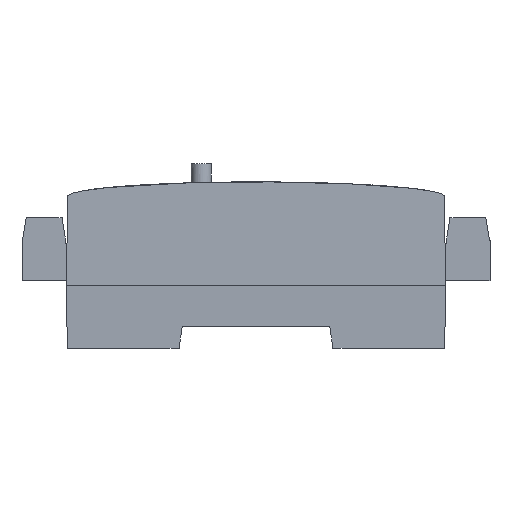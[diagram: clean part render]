
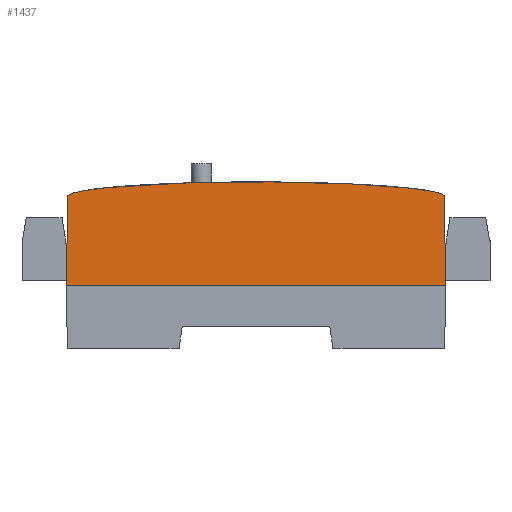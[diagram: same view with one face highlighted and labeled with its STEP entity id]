
A CAD part, left-side view. The second image highlights one B-rep face of the part: STEP entity #1437.
In plain terms, the highlighted planar face has unit normal (-1, 0, 0.018).
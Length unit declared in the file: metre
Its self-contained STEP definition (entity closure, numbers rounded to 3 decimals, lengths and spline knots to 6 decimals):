
#51=B_SPLINE_CURVE_WITH_KNOTS('',3,(#2183,#2184,#2185,#2186,#2187,#2188,
#2189,#2190,#2191,#2192,#2193,#2194,#2195,#2196,#2197,#2198,#2199,#2200,
#2201,#2202,#2203,#2204,#2205,#2206,#2207,#2208,#2209,#2210,#2211,#2212,
#2213),.UNSPECIFIED.,.F.,.F.,(4,1,1,1,1,1,1,1,1,1,1,1,1,1,1,1,1,1,1,1,1,
1,1,1,1,1,1,1,4),(0.00029,0.001001,0.001712,
0.003134,0.004556,0.005977,0.008821,
0.011665,0.014508,0.017352,0.023039,
0.028726,0.034414,0.040101,0.045788,
0.051476,0.057163,0.06285,0.068537,
0.074225,0.077068,0.079912,0.082756,
0.085599,0.087021,0.088443,0.089865,
0.090576,0.091286),.UNSPECIFIED.);
#178=ORIENTED_EDGE('',*,*,#500,.F.);
#179=ORIENTED_EDGE('',*,*,#517,.T.);
#180=ORIENTED_EDGE('',*,*,#532,.T.);
#181=ORIENTED_EDGE('',*,*,#485,.T.);
#485=EDGE_CURVE('',#673,#676,#812,.T.);
#500=EDGE_CURVE('',#683,#676,#827,.F.);
#517=EDGE_CURVE('',#683,#698,#51,.T.);
#532=EDGE_CURVE('',#698,#673,#849,.T.);
#673=VERTEX_POINT('',#2060);
#676=VERTEX_POINT('',#2069);
#683=VERTEX_POINT('',#2098);
#698=VERTEX_POINT('',#2182);
#812=LINE('',#2070,#989);
#827=LINE('',#2099,#1004);
#849=LINE('',#2322,#1026);
#989=VECTOR('',#1690,1.);
#1004=VECTOR('',#1719,1.);
#1026=VECTOR('',#1745,1.);
#1164=EDGE_LOOP('',(#178,#179,#180,#181));
#1269=FACE_BOUND('',#1164,.T.);
#1364=PLANE('',#1572);
#1437=ADVANCED_FACE('',(#1269),#1364,.T.);
#1572=AXIS2_PLACEMENT_3D('',#2324,#1747,#1748);
#1690=DIRECTION('',(0.,-1.,0.));
#1719=DIRECTION('',(0.017,0.017,1.));
#1745=DIRECTION('',(-0.017,0.017,-1.));
#1747=DIRECTION('',(-1.,0.,0.017));
#1748=DIRECTION('',(0.017,0.,1.));
#2060=CARTESIAN_POINT('',(-0.05375,0.045,0.));
#2069=CARTESIAN_POINT('',(-0.05375,-0.045,0.));
#2070=CARTESIAN_POINT('',(-0.05375,0.,0.));
#2098=CARTESIAN_POINT('',(-0.053379,-0.044629,0.021257));
#2099=CARTESIAN_POINT('',(-0.053736,-0.044986,0.000785));
#2182=CARTESIAN_POINT('',(-0.053379,0.044629,0.021257));
#2183=CARTESIAN_POINT('',(-0.053379,-0.044629,0.021257));
#2184=CARTESIAN_POINT('',(-0.053376,-0.044466,0.02143));
#2185=CARTESIAN_POINT('',(-0.053372,-0.044033,0.021638));
#2186=CARTESIAN_POINT('',(-0.053367,-0.043149,0.021949));
#2187=CARTESIAN_POINT('',(-0.053362,-0.042009,0.022217));
#2188=CARTESIAN_POINT('',(-0.053358,-0.040632,0.022474));
#2189=CARTESIAN_POINT('',(-0.053353,-0.038781,0.022758));
#2190=CARTESIAN_POINT('',(-0.053348,-0.036458,0.023041));
#2191=CARTESIAN_POINT('',(-0.053343,-0.033663,0.023314));
#2192=CARTESIAN_POINT('',(-0.053339,-0.030864,0.02354));
#2193=CARTESIAN_POINT('',(-0.053335,-0.027129,0.023795));
#2194=CARTESIAN_POINT('',(-0.05333,-0.022456,0.024041));
#2195=CARTESIAN_POINT('',(-0.053327,-0.016844,0.024254));
#2196=CARTESIAN_POINT('',(-0.053324,-0.011229,0.024398));
#2197=CARTESIAN_POINT('',(-0.053323,-0.005614,0.024482));
#2198=CARTESIAN_POINT('',(-0.053322,0.000002,0.024509));
#2199=CARTESIAN_POINT('',(-0.053323,0.005618,0.024482));
#2200=CARTESIAN_POINT('',(-0.053324,0.011233,0.024398));
#2201=CARTESIAN_POINT('',(-0.053327,0.016848,0.024254));
#2202=CARTESIAN_POINT('',(-0.05333,0.02246,0.024041));
#2203=CARTESIAN_POINT('',(-0.053335,0.027133,0.023794));
#2204=CARTESIAN_POINT('',(-0.053339,0.030868,0.02354));
#2205=CARTESIAN_POINT('',(-0.053343,0.033667,0.023314));
#2206=CARTESIAN_POINT('',(-0.053348,0.036462,0.02304));
#2207=CARTESIAN_POINT('',(-0.053353,0.038785,0.022757));
#2208=CARTESIAN_POINT('',(-0.053358,0.040636,0.022474));
#2209=CARTESIAN_POINT('',(-0.053362,0.042016,0.022216));
#2210=CARTESIAN_POINT('',(-0.053367,0.043158,0.021946));
#2211=CARTESIAN_POINT('',(-0.053372,0.044038,0.021636));
#2212=CARTESIAN_POINT('',(-0.053376,0.044467,0.021429));
#2213=CARTESIAN_POINT('',(-0.053379,0.044629,0.021257));
#2322=CARTESIAN_POINT('',(-0.053736,0.044986,0.000785));
#2324=CARTESIAN_POINT('',(-0.05375,0.,0.));
